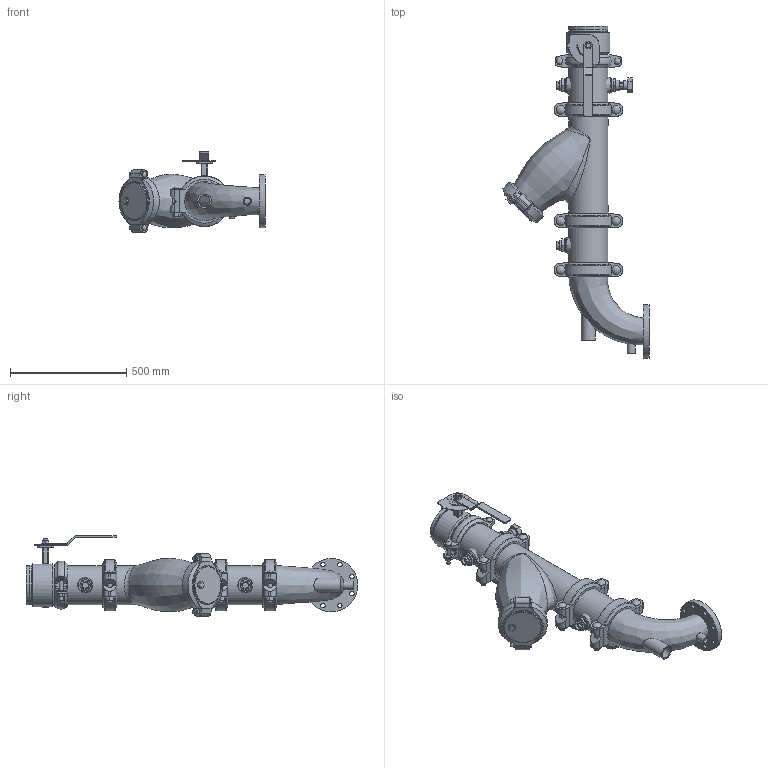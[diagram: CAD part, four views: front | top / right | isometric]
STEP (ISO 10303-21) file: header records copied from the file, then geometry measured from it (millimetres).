
FILE_DESCRIPTION(/* description */ ('VIC SVI PUMP DROP HORZ S/382 (OGSxFLG) (S/924-1.25)','CAx-IF Rec.Pracs.---Representation and Presentation of Product Manufacturing Information (PMI)---4.0---2014-10-13'),/* implementation_level */ '2;1');
FILE_NAME(/* name */ 'C:\Users\Vjadhav\AppData\Roaming\Autodesk\ApplicationPlugins\Victaulic.Temp\A115\Series 382 (OGSxFLG)_924 (1.25)_06.0x04.0 (150x100).stp',/* time_stamp */ '2022-03-17T12:19:17+06:00',/* author */ ('kkamble'),/* organization */ ('Victaulic'),/* preprocessor_version */ 'ST-DEVELOPER v17.2',/* originating_system */ 'Autodesk Inventor 2019',/* authorisation */ '');
FILE_SCHEMA (('AP242_MANAGED_MODEL_BASED_3D_ENGINEERING_MIM_LF { 1 0 10303 442 1 1 4 }'));
Length unit declared in the file: inch
Products named in the file (13): 382_924 (1.25)-06.0x04.0; PIPE-06.0; 107N-06.0; 732-06.0; 732-06.0_1; 07-06.0; 732-06.0_2; PIPE-06.1; 761-06.0; 924-04.0x01.25; 177N-06.0; 923-04.0x0.75; R100F-06.0x04.0
Assembly tree (15 placements, depth 3):
  382_924 (1.25)-06.0x04.0
    PIPE-06.0
    107N-06.0
    732-06.0
      732-06.0_1
      07-06.0
      732-06.0_2
    177N-06.0  x3
    PIPE-06.1
    761-06.0
    924-04.0x01.25
    923-04.0x0.75  x2
    R100F-06.0x04.0
Bounding box: 627.13 x 1425.58 x 347.22 mm (x, y, z)
Volume: 13473397 mm3; surface area: 2842715.6 mm2
Topology: 14 solids, 18 shells, 890 faces, 2286 edges, 1523 vertices
Faces by surface type: plane 499, cylinder 294, bspline 30, torus 30, cone 27, sphere 10
Full cylindrical faces by diameter (mm): 4.826 x10, 8.636 x4, 15.875 x8, 19.05 x16, 21.336 x1, 22.86 x1, 26.67 x4, 27.381 x4, 31.75 x1, 34.29 x1, 37.694 x6, 38.608 x1, 42.164 x1, 45.974 x6, 48.26 x1, 48.514 x1, 55.118 x1, 55.626 x3, 60.96 x1, 102.26 x1, 139.7 x1, 153.797 x1, 154.051 x5, 155.575 x5, 163.957 x11, 168.275 x26, 185.42 x1, 228.6 x1
Entity records: 26073 total; most frequent: CARTESIAN_POINT 8636, DIRECTION 3530, ORIENTED_EDGE 3300, EDGE_CURVE 1650, AXIS2_PLACEMENT_3D 1346, VERTEX_POINT 1105, LINE 838, VECTOR 838
